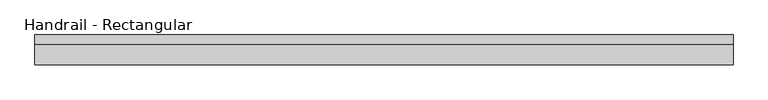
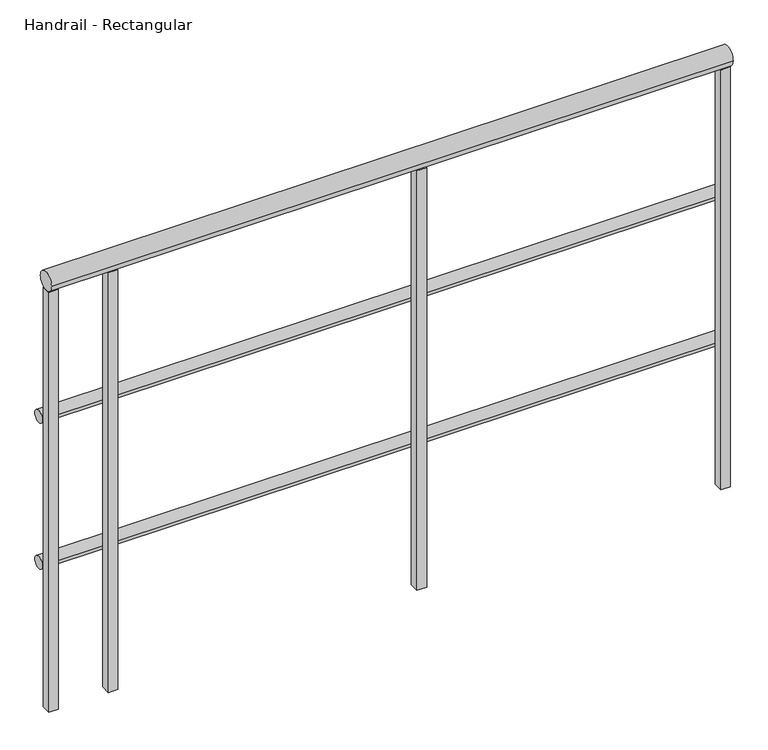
"""IFC4 building model written with IfcOpenShell, lengths in millimetres: railing geometry, Handrail - Rectangular."""

from ifc_helpers import new_model, si_unit, point, frame, frame_2d, origin, place, context, project, spatial, polyline, circle_curve, trimmed, segment, composite_curve, outline, extrude, source, transform, mapped, element, save


def handrail_rectangular_8714f778(model_context):
    return source(origin(), model_context, "Body", "SweptSolid", [
        extrude(outline(composite_curve([segment(trimmed(circle_curve(frame_2d((11970.2316867, 3644.9)), 12.7), [point((11982.9316867, 3644.9))], [point((11957.5316867, 3644.9))], False, "CARTESIAN"), True, "CONTINUOUS"), segment(trimmed(circle_curve(frame_2d((11970.2316867, 3644.9)), 12.7), [point((11957.5316867, 3644.9))], [point((11982.9316867, 3644.9))], False, "CARTESIAN"), True, "CONTINUOUS")], self_intersect=False)), frame((-25550.7839563, 0.0, 0.0), z_axis=(1.0, 0.0, 0.0), x_axis=(0.0, 1.0, 0.0)), (0.0, 0.0, 1.0), 1346.2),
        extrude(outline(composite_curve([segment(trimmed(circle_curve(frame_2d((11970.2316867, 3340.1)), 12.7), [point((11982.9316867, 3340.1))], [point((11957.5316867, 3340.1))], False, "CARTESIAN"), True, "CONTINUOUS"), segment(trimmed(circle_curve(frame_2d((11970.2316867, 3340.1)), 12.7), [point((11957.5316867, 3340.1))], [point((11982.9316867, 3340.1))], False, "CARTESIAN"), True, "CONTINUOUS")], self_intersect=False)), frame((-25550.7839563, 0.0, 0.0), z_axis=(1.0, 0.0, 0.0), x_axis=(0.0, 1.0, 0.0)), (0.0, 0.0, 1.0), 1346.2),
        extrude(outline(composite_curve([segment(trimmed(circle_curve(frame_2d((11944.8316867, 3943.35)), 19.05), [point((11963.8816867, 3943.35))], [point((11925.7816867, 3943.35))], False, "CARTESIAN"), True, "CONTINUOUS"), segment(trimmed(circle_curve(frame_2d((11944.8316867, 3943.35)), 19.05), [point((11925.7816867, 3943.35))], [point((11963.8816867, 3943.35))], False, "CARTESIAN"), True, "CONTINUOUS")], self_intersect=False)), frame((-25550.7839563, 0.0, 0.0), z_axis=(1.0, 0.0, 0.0), x_axis=(0.0, 1.0, 0.0)), (0.0, 0.0, 1.0), 1346.2),
        extrude(outline(polyline([(-25414.2589563, 11935.3066867), (-25433.3089563, 11935.3066867), (-25433.3089563, 11954.3566867), (-25414.2589563, 11954.3566867), (-25414.2589563, 11935.3066867)])), frame((0.0, 0.0, 3048.0), z_axis=(0.0, 0.0, 1.0), x_axis=(1.0, 0.0, 0.0)), (0.0, 0.0, 1.0), 876.3),
        extrude(outline(polyline([(-24804.6589563, 11935.3066867), (-24823.7089563, 11935.3066867), (-24823.7089563, 11954.3566867), (-24804.6589563, 11954.3566867), (-24804.6589563, 11935.3066867)])), frame((0.0, 0.0, 3048.0), z_axis=(0.0, 0.0, 1.0), x_axis=(1.0, 0.0, 0.0)), (0.0, 0.0, 1.0), 876.3),
        extrude(outline(polyline([(-25531.7339563, 11935.3066867), (-25550.7839563, 11935.3066867), (-25550.7839563, 11954.3566867), (-25531.7339563, 11954.3566867), (-25531.7339563, 11935.3066867)])), frame((0.0, 0.0, 3048.0), z_axis=(0.0, 0.0, 1.0), x_axis=(1.0, 0.0, 0.0)), (0.0, 0.0, 1.0), 876.3),
        extrude(outline(polyline([(-24204.5839563, 11935.3066867), (-24223.6339563, 11935.3066867), (-24223.6339563, 11954.3566867), (-24204.5839563, 11954.3566867), (-24204.5839563, 11935.3066867)])), frame((0.0, 0.0, 3048.0), z_axis=(0.0, 0.0, 1.0), x_axis=(1.0, 0.0, 0.0)), (0.0, 0.0, 1.0), 876.3),
    ])


if __name__ == "__main__":
    model = new_model("IFC4")
    model_context = context("Model", 3, world=origin())
    ifc_project = project(units=[si_unit("LENGTHUNIT", "METRE", prefix="MILLI")], contexts=[model_context])
    site = spatial("IfcSite", under=ifc_project)
    building = spatial("IfcBuilding", under=site)
    placement = place(None, origin())
    handrail_rectangular_shape = handrail_rectangular_8714f778(model_context)
    element("IfcRailing", 1, ObjectType="Handrail - Rectangular", at=placement, inside=building, context=model_context, shape_type="MappedRepresentation", body=[
        mapped(handrail_rectangular_shape, transform((0.0, 0.0, 0.0), x_axis=(1.0, 0.0, 0.0), y_axis=(0.0, 1.0, 0.0), z_axis=(0.0, 0.0, 1.0))),
    ])
    save(model, "model.ifc")
